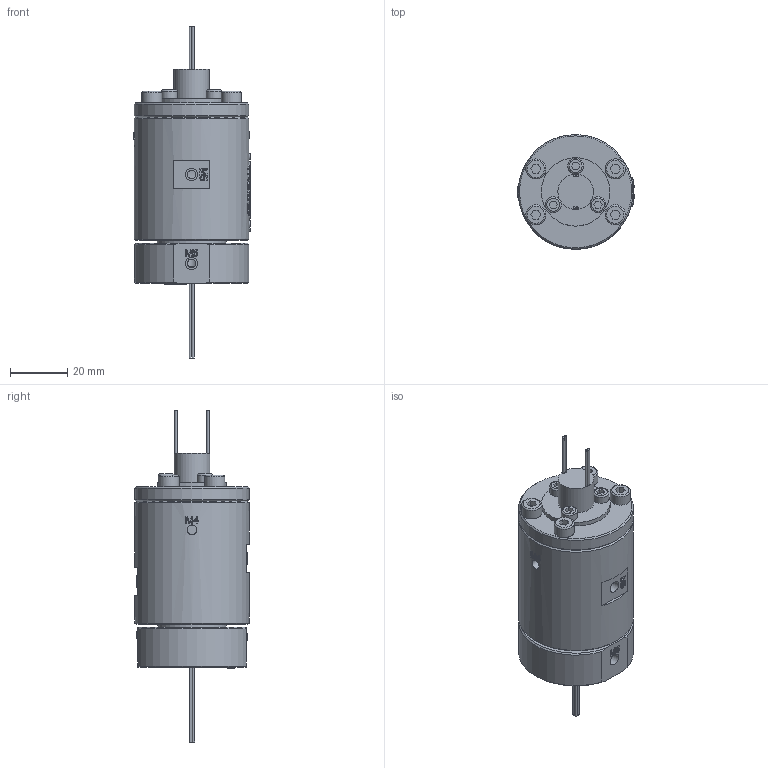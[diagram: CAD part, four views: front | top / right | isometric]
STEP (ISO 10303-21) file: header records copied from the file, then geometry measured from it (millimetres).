
FILE_DESCRIPTION(/* description */ (''),/* implementation_level */ '2;1');
FILE_NAME(/* name */ 'HQ02005-04M.stp',/* time_stamp */ '2025-09-01T09:50:19+08:00',/* author */ (''),/* organization */ (''),/* preprocessor_version */ 'ST-DEVELOPER v16.7',/* originating_system */ 'SIEMENS PLM Software NX 12.0',/* authorisation */ '');
FILE_SCHEMA (('AUTOMOTIVE_DESIGN { 1 0 10303 214 3 1 1 1 }'));
Length unit declared in the file: millimetre
Products named in the file (1): Admi1DF097DFvvsj
Bounding box: 40.68 x 40 x 115.8 mm (x, y, z)
Volume: 79369.6 mm3; surface area: 15665.7 mm2
Topology: 1 solids, 9 shells, 997 faces, 2659 edges, 1769 vertices
Faces by surface type: plane 472, extrusion 385, cylinder 70, bspline 42, cone 21, torus 7
Full cylindrical faces by diameter (mm): 0.8 x8, 3 x7, 3.4 x9, 4 x6, 4.1 x2, 4.2 x6, 5 x1, 5.5 x3, 6 x1, 7 x4, 12.4 x1, 23.9 x1, 24 x1, 32 x1, 40 x2
Entity records: 37252 total; most frequent: CARTESIAN_POINT 16060, ORIENTED_EDGE 5084, DIRECTION 2679, EDGE_CURVE 2542, B_SPLINE_CURVE_WITH_KNOTS 2082, VERTEX_POINT 1735, EDGE_LOOP 1185, ADVANCED_FACE 997
